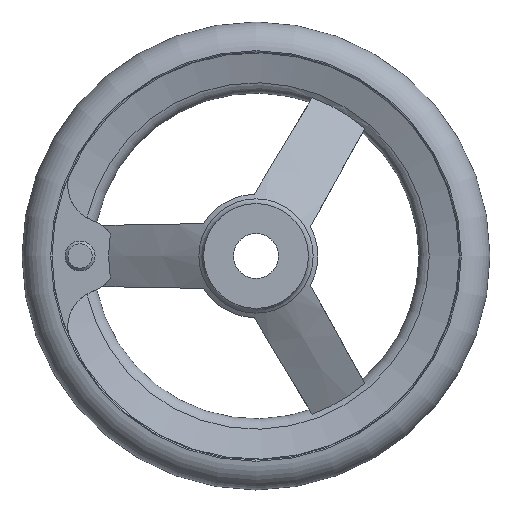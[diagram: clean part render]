
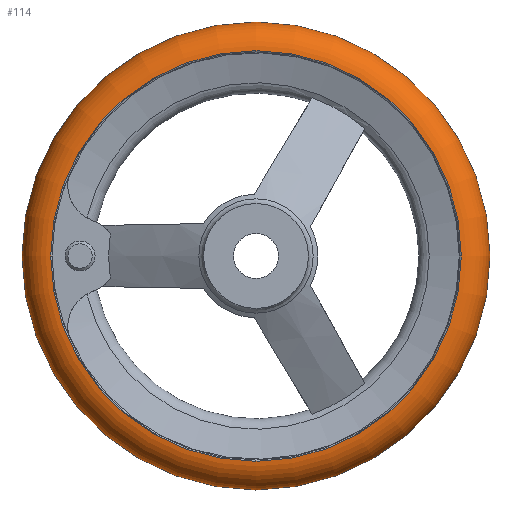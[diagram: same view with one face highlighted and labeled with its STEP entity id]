
A CAD part, left-side view. The second image highlights one B-rep face of the part: STEP entity #114.
In plain terms, the highlighted toroidal (fillet/blend) face has major radius 54.493 mm and minor radius 8.007 mm.
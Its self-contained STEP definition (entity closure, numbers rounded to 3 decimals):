
#114 = ADVANCED_FACE( '', ( #221, #222, #223 ), #224, .T. );
#221 = FACE_BOUND( '', #370, .T. );
#222 = FACE_OUTER_BOUND( '', #371, .T. );
#223 = FACE_OUTER_BOUND( '', #372, .T. );
#224 = TOROIDAL_SURFACE( '', #373, 54.493, 8.007 );
#370 = VERTEX_LOOP( '', #677 );
#371 = EDGE_LOOP( '', ( #678 ) );
#372 = EDGE_LOOP( '', ( #679 ) );
#373 = AXIS2_PLACEMENT_3D( '', #680, #681, #682 );
#677 = VERTEX_POINT( '', #802 );
#678 = ORIENTED_EDGE( '', *, *, #803, .T. );
#679 = ORIENTED_EDGE( '', *, *, #770, .F. );
#680 = CARTESIAN_POINT( '', ( 28., 0., 0. ) );
#681 = DIRECTION( '', ( 1., 0., 0. ) );
#682 = DIRECTION( '', ( 0., 1., 0. ) );
#770 = EDGE_CURVE( '', #921, #921, #922, .T. );
#802 = CARTESIAN_POINT( '', ( 28., 62.5, 0. ) );
#803 = EDGE_CURVE( '', #968, #968, #969, .T. );
#921 = VERTEX_POINT( '', #1411 );
#922 = CIRCLE( '', #1412, 54.833 );
#968 = VERTEX_POINT( '', #1518 );
#969 = CIRCLE( '', #1519, 54.833 );
#1411 = CARTESIAN_POINT( '', ( 36., 54.833, 0. ) );
#1412 = AXIS2_PLACEMENT_3D( '', #1604, #1605, #1606 );
#1518 = CARTESIAN_POINT( '', ( 20., 54.833, 0. ) );
#1519 = AXIS2_PLACEMENT_3D( '', #1669, #1670, #1671 );
#1604 = CARTESIAN_POINT( '', ( 36., 0., 0. ) );
#1605 = DIRECTION( '', ( 1., 0., 0. ) );
#1606 = DIRECTION( '', ( 0., 1., 0. ) );
#1669 = CARTESIAN_POINT( '', ( 20., 0., 0. ) );
#1670 = DIRECTION( '', ( 1., 0., 0. ) );
#1671 = DIRECTION( '', ( 0., 1., 0. ) );
